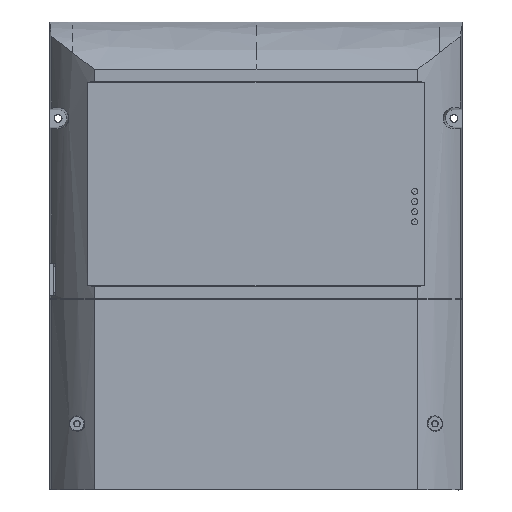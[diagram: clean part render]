
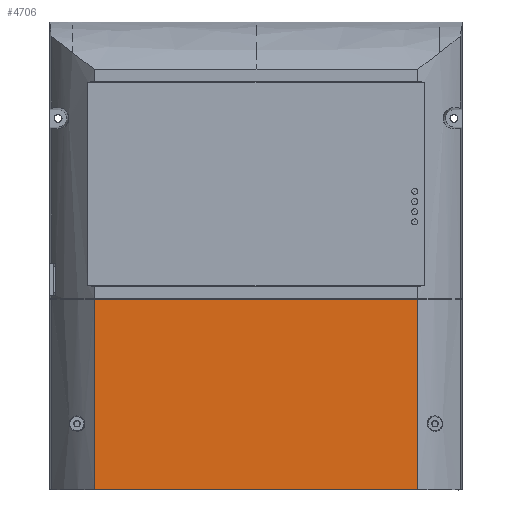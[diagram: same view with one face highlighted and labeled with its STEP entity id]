
A CAD part, top view. The second image highlights one B-rep face of the part: STEP entity #4706.
In plain terms, the highlighted planar face has unit normal (0, 0, 1).
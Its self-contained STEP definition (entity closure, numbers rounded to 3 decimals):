
#2085 = CARTESIAN_POINT ( 'NONE',  ( 26.5, -122.5, 68. ) ) ;
#2503 = CARTESIAN_POINT ( 'NONE',  ( -79.5, -122.5, 68. ) ) ;
#2959 = DIRECTION ( 'NONE',  ( 0., 0., 1. ) ) ;
#2986 = CARTESIAN_POINT ( 'NONE',  ( -26.5, -122.5, 68. ) ) ;
#3733 = CARTESIAN_POINT ( 'NONE',  ( -79.5, -122.5, 68. ) ) ;
#3951 = CARTESIAN_POINT ( 'NONE',  ( -79.5, -91.255, 68. ) ) ;
#4360 = ORIENTED_EDGE ( 'NONE', *, *, #15684, .F. ) ;
#4370 = B_SPLINE_CURVE_WITH_KNOTS ( 'NONE', 3,
 ( #30696, #40928, #37070, #5914 ),
 .UNSPECIFIED., .F., .F.,
 ( 4, 4 ),
 ( 0., 1. ),
 .UNSPECIFIED. ) ;
#4706 = ADVANCED_FACE ( 'NONE', ( #30933 ), #33661, .T. ) ;
#5914 = CARTESIAN_POINT ( 'NONE',  ( 79.5, -28.765, 68. ) ) ;
#9110 = VERTEX_POINT ( 'NONE', #42577 ) ;
#9593 = CARTESIAN_POINT ( 'NONE',  ( 79.5, -122.5, 68. ) ) ;
#10042 = CARTESIAN_POINT ( 'NONE',  ( 26.5, -28.765, 68. ) ) ;
#10272 = CARTESIAN_POINT ( 'NONE',  ( 79.5, -28.765, 68. ) ) ;
#11659 = CARTESIAN_POINT ( 'NONE',  ( 79.5, -122.5, 68. ) ) ;
#12389 = VERTEX_POINT ( 'NONE', #37643 ) ;
#13914 = CARTESIAN_POINT ( 'NONE',  ( -26.5, -28.765, 68. ) ) ;
#15684 = EDGE_CURVE ( 'NONE', #9110, #25081, #37094, .T. ) ;
#16672 = CARTESIAN_POINT ( 'NONE',  ( -79.5, -122.5, 68. ) ) ;
#17651 = CARTESIAN_POINT ( 'NONE',  ( -79.5, -60.01, 68. ) ) ;
#17690 = B_SPLINE_CURVE_WITH_KNOTS ( 'NONE', 3,
 ( #41182, #13914, #10042, #10272 ),
 .UNSPECIFIED., .F., .F.,
 ( 4, 4 ),
 ( 0., 1. ),
 .UNSPECIFIED. ) ;
#20519 = EDGE_CURVE ( 'NONE', #32393, #9110, #38745, .T. ) ;
#24129 = DIRECTION ( 'NONE',  ( 1., 0., 0. ) ) ;
#24237 = CARTESIAN_POINT ( 'NONE',  ( -79.5, -28.765, 68. ) ) ;
#25081 = VERTEX_POINT ( 'NONE', #39882 ) ;
#26307 = ORIENTED_EDGE ( 'NONE', *, *, #30607, .F. ) ;
#30607 = EDGE_CURVE ( 'NONE', #25081, #12389, #17690, .T. ) ;
#30696 = CARTESIAN_POINT ( 'NONE',  ( 79.5, -122.5, 68. ) ) ;
#30933 = FACE_OUTER_BOUND ( 'NONE', #42395, .T. ) ;
#32393 = VERTEX_POINT ( 'NONE', #11659 ) ;
#33661 = PLANE ( 'NONE',  #34650 ) ;
#33692 = EDGE_CURVE ( 'NONE', #32393, #12389, #4370, .T. ) ;
#34650 = AXIS2_PLACEMENT_3D ( 'NONE', #2503, #2959, #24129 ) ;
#34744 = ORIENTED_EDGE ( 'NONE', *, *, #20519, .F. ) ;
#37070 = CARTESIAN_POINT ( 'NONE',  ( 79.5, -60.01, 68. ) ) ;
#37094 = B_SPLINE_CURVE_WITH_KNOTS ( 'NONE', 3,
 ( #3733, #3951, #17651, #24237 ),
 .UNSPECIFIED., .F., .F.,
 ( 4, 4 ),
 ( 0., 1. ),
 .UNSPECIFIED. ) ;
#37643 = CARTESIAN_POINT ( 'NONE',  ( 79.5, -28.765, 68. ) ) ;
#38745 = B_SPLINE_CURVE_WITH_KNOTS ( 'NONE', 3,
 ( #9593, #2085, #2986, #16672 ),
 .UNSPECIFIED., .F., .F.,
 ( 4, 4 ),
 ( 0., 1. ),
 .UNSPECIFIED. ) ;
#39882 = CARTESIAN_POINT ( 'NONE',  ( -79.5, -28.765, 68. ) ) ;
#40691 = ORIENTED_EDGE ( 'NONE', *, *, #33692, .T. ) ;
#40928 = CARTESIAN_POINT ( 'NONE',  ( 79.5, -91.255, 68. ) ) ;
#41182 = CARTESIAN_POINT ( 'NONE',  ( -79.5, -28.765, 68. ) ) ;
#42395 = EDGE_LOOP ( 'NONE', ( #34744, #40691, #26307, #4360 ) ) ;
#42577 = CARTESIAN_POINT ( 'NONE',  ( -79.5, -122.5, 68. ) ) ;
